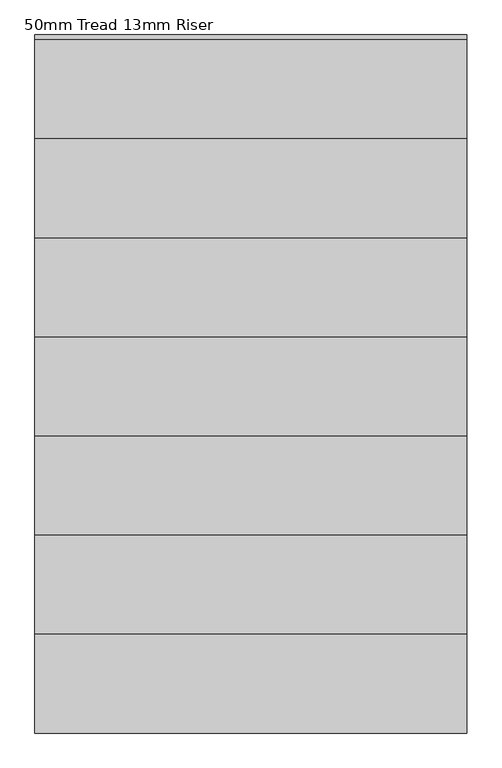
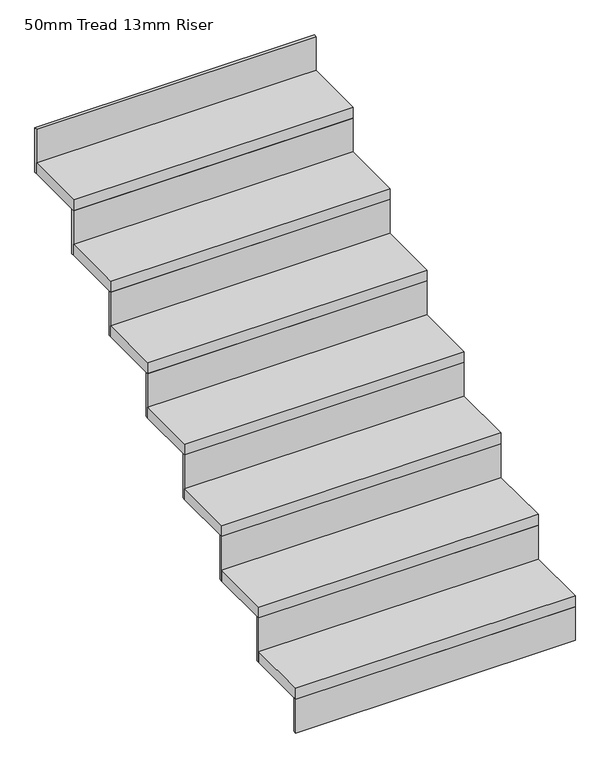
"""IFC4 building model written with IfcOpenShell, lengths in millimetres: stair flight geometry, 50mm Tread 13mm Riser."""

from ifc_helpers import new_model, si_unit, frame, origin, place, context, project, spatial, polyline, outline, extrude, source, transform, mapped, element, save


def stair_flight_50mm_tread_13mm_riser_f0b479b5(model_context):
    return source(origin(), model_context, "Body", "SweptSolid", [
        extrude(outline(polyline([(1227.2607589, 10761.5722364), (2447.2607589, 10761.5722364), (2447.2607589, 10481.5722364), (1227.2607589, 10481.5722364), (1227.2607589, 10761.5722364)])), frame((0.0, 0.0, 4655.8823529), z_axis=(0.0, 0.0, 1.0), x_axis=(1.0, 0.0, 0.0)), (0.0, 0.0, 1.0), 50.0),
        extrude(outline(polyline([(2447.2607589, 10494.0722364), (2447.2607589, 10481.5722364), (1227.2607589, 10481.5722364), (1227.2607589, 10494.0722364), (2447.2607589, 10494.0722364)])), frame((0.0, 0.0, 4500.0), z_axis=(0.0, 0.0, 1.0), x_axis=(1.0, 0.0, 0.0)), (0.0, 0.0, 1.0), 155.8823529),
        extrude(outline(polyline([(1227.2607589, 11041.5722364), (2447.2607589, 11041.5722364), (2447.2607589, 10761.5722364), (1227.2607589, 10761.5722364), (1227.2607589, 11041.5722364)])), frame((0.0, 0.0, 4861.7647059), z_axis=(0.0, 0.0, 1.0), x_axis=(1.0, 0.0, 0.0)), (0.0, 0.0, 1.0), 50.0),
        extrude(outline(polyline([(2447.2607589, 10774.0722364), (2447.2607589, 10761.5722364), (1227.2607589, 10761.5722364), (1227.2607589, 10774.0722364), (2447.2607589, 10774.0722364)])), frame((0.0, 0.0, 4655.8823529), z_axis=(0.0, 0.0, 1.0), x_axis=(1.0, 0.0, 0.0)), (0.0, 0.0, 1.0), 205.8823529),
        extrude(outline(polyline([(1227.2607589, 11321.5722364), (2447.2607589, 11321.5722364), (2447.2607589, 11041.5722364), (1227.2607589, 11041.5722364), (1227.2607589, 11321.5722364)])), frame((0.0, 0.0, 5067.6470588), z_axis=(0.0, 0.0, 1.0), x_axis=(1.0, 0.0, 0.0)), (0.0, 0.0, 1.0), 50.0),
        extrude(outline(polyline([(2447.2607589, 11054.0722364), (2447.2607589, 11041.5722364), (1227.2607589, 11041.5722364), (1227.2607589, 11054.0722364), (2447.2607589, 11054.0722364)])), frame((0.0, 0.0, 4861.7647059), z_axis=(0.0, 0.0, 1.0), x_axis=(1.0, 0.0, 0.0)), (0.0, 0.0, 1.0), 205.8823529),
        extrude(outline(polyline([(1227.2607589, 11601.5722364), (2447.2607589, 11601.5722364), (2447.2607589, 11321.5722364), (1227.2607589, 11321.5722364), (1227.2607589, 11601.5722364)])), frame((0.0, 0.0, 5273.5294118), z_axis=(0.0, 0.0, 1.0), x_axis=(1.0, 0.0, 0.0)), (0.0, 0.0, 1.0), 50.0),
        extrude(outline(polyline([(2447.2607589, 11334.0722364), (2447.2607589, 11321.5722364), (1227.2607589, 11321.5722364), (1227.2607589, 11334.0722364), (2447.2607589, 11334.0722364)])), frame((0.0, 0.0, 5067.6470588), z_axis=(0.0, 0.0, 1.0), x_axis=(1.0, 0.0, 0.0)), (0.0, 0.0, 1.0), 205.8823529),
        extrude(outline(polyline([(1227.2607589, 11881.5722364), (2447.2607589, 11881.5722364), (2447.2607589, 11601.5722364), (1227.2607589, 11601.5722364), (1227.2607589, 11881.5722364)])), frame((0.0, 0.0, 5479.4117647), z_axis=(0.0, 0.0, 1.0), x_axis=(1.0, 0.0, 0.0)), (0.0, 0.0, 1.0), 50.0),
        extrude(outline(polyline([(2447.2607589, 11614.0722364), (2447.2607589, 11601.5722364), (1227.2607589, 11601.5722364), (1227.2607589, 11614.0722364), (2447.2607589, 11614.0722364)])), frame((0.0, 0.0, 5273.5294118), z_axis=(0.0, 0.0, 1.0), x_axis=(1.0, 0.0, 0.0)), (0.0, 0.0, 1.0), 205.8823529),
        extrude(outline(polyline([(1227.2607589, 12161.5722364), (2447.2607589, 12161.5722364), (2447.2607589, 11881.5722364), (1227.2607589, 11881.5722364), (1227.2607589, 12161.5722364)])), frame((0.0, 0.0, 5685.2941176), z_axis=(0.0, 0.0, 1.0), x_axis=(1.0, 0.0, 0.0)), (0.0, 0.0, 1.0), 50.0),
        extrude(outline(polyline([(2447.2607589, 11894.0722364), (2447.2607589, 11881.5722364), (1227.2607589, 11881.5722364), (1227.2607589, 11894.0722364), (2447.2607589, 11894.0722364)])), frame((0.0, 0.0, 5479.4117647), z_axis=(0.0, 0.0, 1.0), x_axis=(1.0, 0.0, 0.0)), (0.0, 0.0, 1.0), 205.8823529),
        extrude(outline(polyline([(1227.2607589, 12441.5722364), (2447.2607589, 12441.5722364), (2447.2607589, 12161.5722364), (1227.2607589, 12161.5722364), (1227.2607589, 12441.5722364)])), frame((0.0, 0.0, 5891.1764706), z_axis=(0.0, 0.0, 1.0), x_axis=(1.0, 0.0, 0.0)), (0.0, 0.0, 1.0), 50.0),
        extrude(outline(polyline([(2447.2607589, 12174.0722364), (2447.2607589, 12161.5722364), (1227.2607589, 12161.5722364), (1227.2607589, 12174.0722364), (2447.2607589, 12174.0722364)])), frame((0.0, 0.0, 5685.2941176), z_axis=(0.0, 0.0, 1.0), x_axis=(1.0, 0.0, 0.0)), (0.0, 0.0, 1.0), 205.8823529),
        extrude(outline(polyline([(2447.2607589, 12454.0722364), (2447.2607589, 12441.5722364), (1227.2607589, 12441.5722364), (1227.2607589, 12454.0722364), (2447.2607589, 12454.0722364)])), frame((0.0, 0.0, 5891.1764706), z_axis=(0.0, 0.0, 1.0), x_axis=(1.0, 0.0, 0.0)), (0.0, 0.0, 1.0), 205.8823529),
    ])


if __name__ == "__main__":
    model = new_model("IFC4")
    model_context = context("Model", 3, world=origin())
    ifc_project = project(units=[si_unit("LENGTHUNIT", "METRE", prefix="MILLI")], contexts=[model_context])
    site = spatial("IfcSite", under=ifc_project)
    building = spatial("IfcBuilding", under=site)
    placement = place(None, origin())
    stair_flight_50mm_tread_13mm_riser_shape = stair_flight_50mm_tread_13mm_riser_f0b479b5(model_context)
    element("IfcStairFlight", 1, ObjectType="50mm Tread 13mm Riser", at=placement, inside=building, context=model_context, shape_type="MappedRepresentation", body=[
        mapped(stair_flight_50mm_tread_13mm_riser_shape, transform((0.0, 0.0, 0.0), x_axis=(1.0, 0.0, 0.0), y_axis=(0.0, 1.0, 0.0), z_axis=(0.0, 0.0, 1.0))),
    ])
    save(model, "model.ifc")
